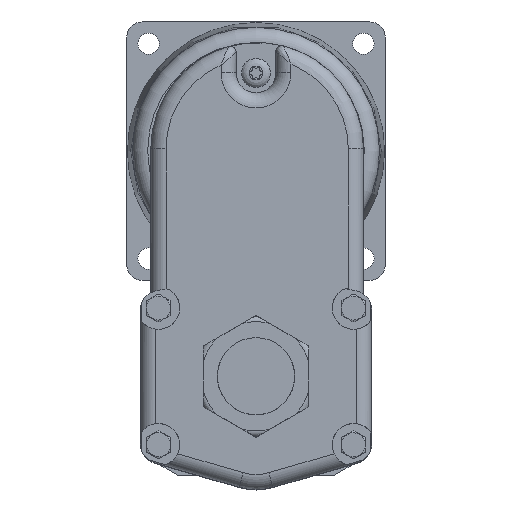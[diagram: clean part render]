
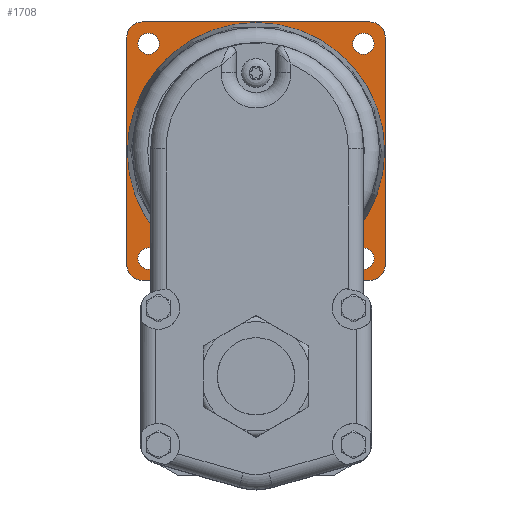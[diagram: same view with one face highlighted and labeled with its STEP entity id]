
A CAD part, top view. The second image highlights one B-rep face of the part: STEP entity #1708.
In plain terms, the highlighted planar face has unit normal (0, 0, 1).
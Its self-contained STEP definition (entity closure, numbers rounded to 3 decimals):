
#467 = VERTEX_POINT ( 'NONE', #964 ) ;
#468 = VERTEX_POINT ( 'NONE', #965 ) ;
#469 = VERTEX_POINT ( 'NONE', #966 ) ;
#470 = VERTEX_POINT ( 'NONE', #967 ) ;
#471 = VERTEX_POINT ( 'NONE', #968 ) ;
#472 = VERTEX_POINT ( 'NONE', #969 ) ;
#473 = VERTEX_POINT ( 'NONE', #970 ) ;
#474 = VERTEX_POINT ( 'NONE', #971 ) ;
#964 = CARTESIAN_POINT ( 'NONE',  ( -42.5, 111.9, -11.3 ) ) ;
#965 = CARTESIAN_POINT ( 'NONE',  ( -42.5, 36.9, -11.3 ) ) ;
#966 = CARTESIAN_POINT ( 'NONE',  ( -37.5, 31.9, -11.3 ) ) ;
#967 = CARTESIAN_POINT ( 'NONE',  ( 37.5, 31.9, -11.3 ) ) ;
#968 = CARTESIAN_POINT ( 'NONE',  ( 42.5, 36.9, -11.3 ) ) ;
#969 = CARTESIAN_POINT ( 'NONE',  ( 42.5, 111.9, -11.3 ) ) ;
#970 = CARTESIAN_POINT ( 'NONE',  ( 37.5, 116.9, -11.3 ) ) ;
#971 = CARTESIAN_POINT ( 'NONE',  ( -37.5, 116.9, -11.3 ) ) ;
#1708 = ADVANCED_FACE ( 'NONE', ( #6999, #7002, #7006, #7008, #7003, #7001 ), #6301, .F. ) ;
#1749 = EDGE_LOOP ( 'NONE', ( #3339 ) ) ;
#1756 = EDGE_LOOP ( 'NONE', ( #3340 ) ) ;
#1757 = EDGE_LOOP ( 'NONE', ( #3341, #3342, #3343, #3344, #3345, #3346, #3347, #3348 ) ) ;
#1758 = EDGE_LOOP ( 'NONE', ( #3349 ) ) ;
#1759 = EDGE_LOOP ( 'NONE', ( #3350 ) ) ;
#1760 = EDGE_LOOP ( 'NONE', ( #3351 ) ) ;
#2520 = EDGE_CURVE ( 'NONE', #11472, #11472, #4400, .T. ) ;
#2571 = EDGE_CURVE ( 'NONE', #467, #468, #8563, .T. ) ;
#2575 = EDGE_CURVE ( 'NONE', #11484, #11484, #8571, .T. ) ;
#2577 = EDGE_CURVE ( 'NONE', #469, #470, #8565, .T. ) ;
#2580 = EDGE_CURVE ( 'NONE', #11492, #11492, #8577, .T. ) ;
#2581 = EDGE_CURVE ( 'NONE', #468, #469, #8579, .T. ) ;
#2582 = EDGE_CURVE ( 'NONE', #470, #471, #8581, .T. ) ;
#2583 = EDGE_CURVE ( 'NONE', #471, #472, #8570, .T. ) ;
#2584 = EDGE_CURVE ( 'NONE', #472, #473, #8583, .T. ) ;
#2585 = EDGE_CURVE ( 'NONE', #473, #474, #8569, .T. ) ;
#2586 = EDGE_CURVE ( 'NONE', #474, #467, #8586, .T. ) ;
#2588 = EDGE_CURVE ( 'NONE', #11494, #11494, #8588, .T. ) ;
#2590 = EDGE_CURVE ( 'NONE', #11496, #11496, #8592, .T. ) ;
#3339 = ORIENTED_EDGE ( 'NONE', *, *, #2575, .F. ) ;
#3340 = ORIENTED_EDGE ( 'NONE', *, *, #2580, .F. ) ;
#3341 = ORIENTED_EDGE ( 'NONE', *, *, #2571, .T. ) ;
#3342 = ORIENTED_EDGE ( 'NONE', *, *, #2581, .T. ) ;
#3343 = ORIENTED_EDGE ( 'NONE', *, *, #2577, .T. ) ;
#3344 = ORIENTED_EDGE ( 'NONE', *, *, #2582, .T. ) ;
#3345 = ORIENTED_EDGE ( 'NONE', *, *, #2583, .T. ) ;
#3346 = ORIENTED_EDGE ( 'NONE', *, *, #2584, .T. ) ;
#3347 = ORIENTED_EDGE ( 'NONE', *, *, #2585, .T. ) ;
#3348 = ORIENTED_EDGE ( 'NONE', *, *, #2586, .T. ) ;
#3349 = ORIENTED_EDGE ( 'NONE', *, *, #2588, .F. ) ;
#3350 = ORIENTED_EDGE ( 'NONE', *, *, #2590, .F. ) ;
#3351 = ORIENTED_EDGE ( 'NONE', *, *, #2520, .T. ) ;
#4400 = CIRCLE ( 'NONE', #4963, 42.331 ) ;
#4912 = AXIS2_PLACEMENT_3D ( 'NONE', #6300, #6303, #6304 ) ;
#4963 = AXIS2_PLACEMENT_3D ( 'NONE', #7435, #7443, #7444 ) ;
#4990 = AXIS2_PLACEMENT_3D ( 'NONE', #7613, #7614, #7615 ) ;
#4993 = AXIS2_PLACEMENT_3D ( 'NONE', #7574, #7575, #7576 ) ;
#4997 = AXIS2_PLACEMENT_3D ( 'NONE', #7588, #7595, #7596 ) ;
#4999 = AXIS2_PLACEMENT_3D ( 'NONE', #7566, #7589, #7590 ) ;
#5000 = AXIS2_PLACEMENT_3D ( 'NONE', #7585, #7592, #7593 ) ;
#5001 = AXIS2_PLACEMENT_3D ( 'NONE', #7591, #7600, #7601 ) ;
#5002 = AXIS2_PLACEMENT_3D ( 'NONE', #7594, #7605, #7606 ) ;
#5003 = AXIS2_PLACEMENT_3D ( 'NONE', #7599, #7609, #7610 ) ;
#6300 = CARTESIAN_POINT ( 'NONE',  ( 42.5, 116.9, -11.3 ) ) ;
#6301 = PLANE ( 'NONE',  #4912 ) ;
#6303 = DIRECTION ( 'NONE',  ( 0., 0., -1. ) ) ;
#6304 = DIRECTION ( 'NONE',  ( -1., 0., 0. ) ) ;
#6999 = FACE_BOUND ( 'NONE', #1749, .T. ) ;
#7001 = FACE_BOUND ( 'NONE', #1760, .T. ) ;
#7002 = FACE_BOUND ( 'NONE', #1756, .T. ) ;
#7003 = FACE_BOUND ( 'NONE', #1759, .T. ) ;
#7006 = FACE_OUTER_BOUND ( 'NONE', #1757, .T. ) ;
#7008 = FACE_BOUND ( 'NONE', #1758, .T. ) ;
#7435 = CARTESIAN_POINT ( 'NONE',  ( 0., 74.4, -11.3 ) ) ;
#7443 = DIRECTION ( 'NONE',  ( 0., 0., -1. ) ) ;
#7444 = DIRECTION ( 'NONE',  ( -1., 0., 0. ) ) ;
#7563 = CARTESIAN_POINT ( 'NONE',  ( -42.5, 116.9, -11.3 ) ) ;
#7564 = DIRECTION ( 'NONE',  ( 0., -1., 0. ) ) ;
#7566 = CARTESIAN_POINT ( 'NONE',  ( -35.355, 39.045, -11.3 ) ) ;
#7574 = CARTESIAN_POINT ( 'NONE',  ( 35.355, 109.755, -11.3 ) ) ;
#7575 = DIRECTION ( 'NONE',  ( 0., 0., 1. ) ) ;
#7576 = DIRECTION ( 'NONE',  ( 1., 0., 0. ) ) ;
#7580 = CARTESIAN_POINT ( 'NONE',  ( -42.5, 31.9, -11.3 ) ) ;
#7581 = DIRECTION ( 'NONE',  ( 1., 0., 0. ) ) ;
#7585 = CARTESIAN_POINT ( 'NONE',  ( -37.5, 36.9, -11.3 ) ) ;
#7588 = CARTESIAN_POINT ( 'NONE',  ( 37.5, 36.9, -11.3 ) ) ;
#7589 = DIRECTION ( 'NONE',  ( 0., 0., 1. ) ) ;
#7590 = DIRECTION ( 'NONE',  ( 1., 0., 0. ) ) ;
#7591 = CARTESIAN_POINT ( 'NONE',  ( 37.5, 111.9, -11.3 ) ) ;
#7592 = DIRECTION ( 'NONE',  ( 0., 0., 1. ) ) ;
#7593 = DIRECTION ( 'NONE',  ( -1., 0., 0. ) ) ;
#7594 = CARTESIAN_POINT ( 'NONE',  ( -37.5, 111.9, -11.3 ) ) ;
#7595 = DIRECTION ( 'NONE',  ( 0., 0., 1. ) ) ;
#7596 = DIRECTION ( 'NONE',  ( -1., 0., 0. ) ) ;
#7597 = CARTESIAN_POINT ( 'NONE',  ( 42.5, 116.9, -11.3 ) ) ;
#7598 = DIRECTION ( 'NONE',  ( 0., 1., 0. ) ) ;
#7599 = CARTESIAN_POINT ( 'NONE',  ( 35.355, 39.045, -11.3 ) ) ;
#7600 = DIRECTION ( 'NONE',  ( 0., 0., 1. ) ) ;
#7601 = DIRECTION ( 'NONE',  ( -1., 0., 0. ) ) ;
#7602 = CARTESIAN_POINT ( 'NONE',  ( -42.5, 116.9, -11.3 ) ) ;
#7603 = DIRECTION ( 'NONE',  ( -1., 0., 0. ) ) ;
#7605 = DIRECTION ( 'NONE',  ( 0., 0., 1. ) ) ;
#7606 = DIRECTION ( 'NONE',  ( -1., 0., 0. ) ) ;
#7609 = DIRECTION ( 'NONE',  ( 0., 0., 1. ) ) ;
#7610 = DIRECTION ( 'NONE',  ( 1., 0., 0. ) ) ;
#7613 = CARTESIAN_POINT ( 'NONE',  ( -35.355, 109.755, -11.3 ) ) ;
#7614 = DIRECTION ( 'NONE',  ( 0., 0., 1. ) ) ;
#7615 = DIRECTION ( 'NONE',  ( 1., 0., 0. ) ) ;
#8563 = LINE ( 'NONE', #7563, #8564 ) ;
#8564 = VECTOR ( 'NONE', #7564, 1000. ) ;
#8565 = LINE ( 'NONE', #7580, #8572 ) ;
#8569 = LINE ( 'NONE', #7602, #8580 ) ;
#8570 = LINE ( 'NONE', #7597, #8578 ) ;
#8571 = CIRCLE ( 'NONE', #4993, 3.5 ) ;
#8572 = VECTOR ( 'NONE', #7581, 1000. ) ;
#8577 = CIRCLE ( 'NONE', #4999, 3.5 ) ;
#8578 = VECTOR ( 'NONE', #7598, 1000. ) ;
#8579 = CIRCLE ( 'NONE', #5000, 5. ) ;
#8580 = VECTOR ( 'NONE', #7603, 1000. ) ;
#8581 = CIRCLE ( 'NONE', #4997, 5. ) ;
#8583 = CIRCLE ( 'NONE', #5001, 5. ) ;
#8586 = CIRCLE ( 'NONE', #5002, 5. ) ;
#8588 = CIRCLE ( 'NONE', #5003, 3.5 ) ;
#8592 = CIRCLE ( 'NONE', #4990, 3.5 ) ;
#11472 = VERTEX_POINT ( 'NONE', #11473 ) ;
#11473 = CARTESIAN_POINT ( 'NONE',  ( -42.331, 74.4, -11.3 ) ) ;
#11484 = VERTEX_POINT ( 'NONE', #11485 ) ;
#11485 = CARTESIAN_POINT ( 'NONE',  ( 38.855, 109.755, -11.3 ) ) ;
#11492 = VERTEX_POINT ( 'NONE', #11493 ) ;
#11493 = CARTESIAN_POINT ( 'NONE',  ( -31.855, 39.045, -11.3 ) ) ;
#11494 = VERTEX_POINT ( 'NONE', #11495 ) ;
#11495 = CARTESIAN_POINT ( 'NONE',  ( 38.855, 39.045, -11.3 ) ) ;
#11496 = VERTEX_POINT ( 'NONE', #11497 ) ;
#11497 = CARTESIAN_POINT ( 'NONE',  ( -31.855, 109.755, -11.3 ) ) ;
